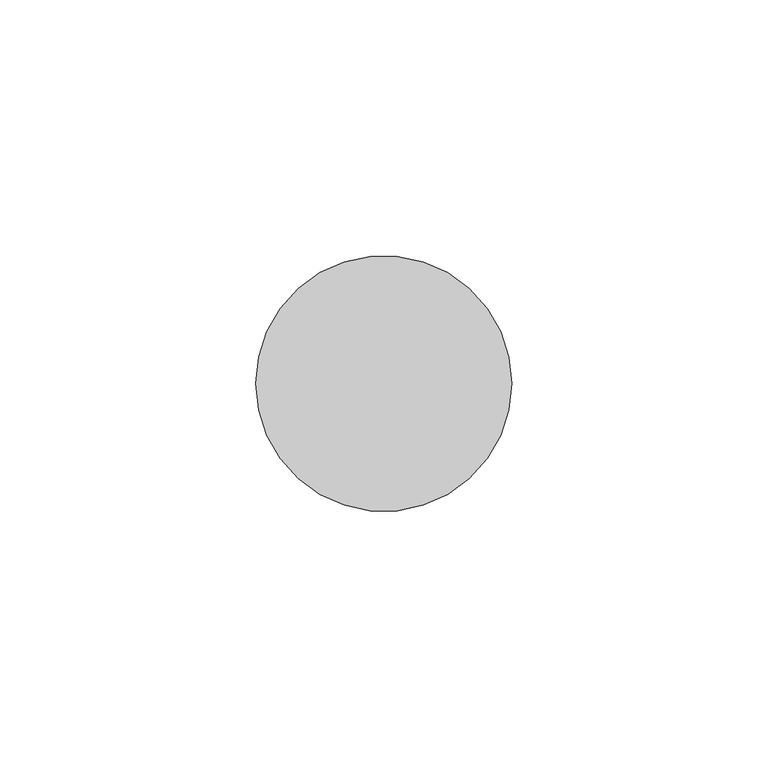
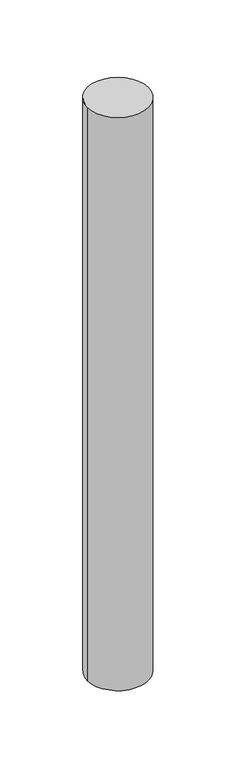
"""IFC4 building model written with IfcOpenShell, lengths in millimetres: member geometry, Импост круглого сечения : Радиус 25мм."""

import ifcopenshell
import ifcopenshell.guid

model = None  # the IFC model being written
_history = None  # IfcOwnerHistory: only IFC2X3 demands one
_inside = {}  # id of a spatial element -> (the spatial element, [elements in it])
_under = {}  # id of a project, library or spatial element -> (it, [spatial elements below it])
_declared = {}  # id of a project -> (the project, [libraries it declares])
_typed = {}  # id of a type object -> (the type object, [elements of that type])
_made_of = {}  # id of a material, layer set ... -> (it, [elements and type objects made of it])


def new_model(schema):
    """Start an empty IFC model of exactly this schema.

    Asked for "IFC4X3", IfcOpenShell would pick the latest addendum, in which some entities
    have other attributes; the version numbers below select the first issue.
    IFC2X3 requires an IfcOwnerHistory on every rooted entity: one is made here for all.
    """
    global model, _history
    if schema == "IFC4X3":
        model = ifcopenshell.file(schema_version=(4, 3, 0, 0))
    else:
        model = ifcopenshell.file(schema=schema)
    _inside.clear()
    _under.clear()
    _declared.clear()
    _typed.clear()
    _made_of.clear()
    _history = None
    if model.schema == "IFC2X3":
        org = make("IfcOrganization", Name="unknown")
        user = make(
            "IfcPersonAndOrganization",
            ThePerson=make("IfcPerson", FamilyName="unknown"),
            TheOrganization=org,
        )
        app = make(
            "IfcApplication",
            ApplicationDeveloper=org,
            Version="unknown",
            ApplicationFullName="unknown",
            ApplicationIdentifier="unknown",
        )
        _history = make(
            "IfcOwnerHistory",
            OwningUser=user,
            OwningApplication=app,
            ChangeAction="ADDED",
            CreationDate=0,
        )
    return model


def make(cls, **values):
    """One entity of the class cls with the attributes given. An attribute that is None is left unset."""
    return model.create_entity(
        cls, **{name: value for name, value in values.items() if value is not None}
    )


def rooted(cls, **values):
    """An entity with a GlobalId (a new one), such as an element, a storey or a relation."""
    return make(cls, GlobalId=ifcopenshell.guid.new(), OwnerHistory=_history, **values)


def si_unit(unit_type, name, prefix=None):
    """IfcSIUnit, for example si_unit("LENGTHUNIT", "METRE", prefix="MILLI")."""
    return make("IfcSIUnit", UnitType=unit_type, Prefix=prefix, Name=name)


def assignment(units):
    """IfcUnitAssignment: the units of a project."""
    return None if units is None else make("IfcUnitAssignment", Units=units)


def point(xyz):
    """IfcCartesianPoint."""
    return None if xyz is None else make("IfcCartesianPoint", Coordinates=xyz)


def direction(xyz):
    """IfcDirection."""
    return None if xyz is None else make("IfcDirection", DirectionRatios=xyz)


def frame(location, z_axis=None, x_axis=None):
    """IfcAxis2Placement3D, a coordinate frame: its origin and axes. An axis left out is left unset."""
    return make(
        "IfcAxis2Placement3D",
        Location=point(location),
        Axis=direction(z_axis),
        RefDirection=direction(x_axis),
    )


def frame_2d(location, x_axis=None):
    """IfcAxis2Placement2D, a coordinate frame in the plane: its origin and x axis."""
    return make(
        "IfcAxis2Placement2D", Location=point(location), RefDirection=direction(x_axis)
    )


def origin():
    """The frame at (0, 0, 0) with its axes left unset."""
    return frame((0.0, 0.0, 0.0))


def origin_2d():
    """The frame at (0, 0) in the plane with its x axis left unset."""
    return frame_2d((0.0, 0.0))


def place(relative_to, where):
    """IfcLocalPlacement: puts the frame where relative to a parent placement (None: the world)."""
    return make(
        "IfcLocalPlacement", PlacementRelTo=relative_to, RelativePlacement=where
    )


def context(
    kind, dimensions, precision=None, world=None, true_north=None, identifier=None
):
    """IfcGeometricRepresentationContext, for example the 3D "Model" context."""
    return make(
        "IfcGeometricRepresentationContext",
        ContextIdentifier=identifier,
        ContextType=kind,
        CoordinateSpaceDimension=dimensions,
        Precision=precision,
        WorldCoordinateSystem=world,
        TrueNorth=true_north,
    )


def project(units=None, contexts=None):
    """IfcProject with its units and contexts."""
    return rooted(
        "IfcProject",
        Name="project",
        RepresentationContexts=contexts,
        UnitsInContext=assignment(units),
    )


def spatial(cls, under=None, at=None, **own):
    """A site, building, storey or space (cls), placed at a placement, below another one or the project."""
    s = rooted(cls, ObjectPlacement=at, **own)
    if under is not None:
        _under.setdefault(under.id(), (under, []))[1].append(s)
    return s


def circle_curve(where, radius):
    """IfcCircle in the frame where."""
    return make("IfcCircle", Position=where, Radius=radius)


def trimmed(basis, trim1, trim2, sense, master):
    """IfcTrimmedCurve: the piece of a basis curve between two trims."""
    return make(
        "IfcTrimmedCurve",
        BasisCurve=basis,
        Trim1=trim1,
        Trim2=trim2,
        SenseAgreement=sense,
        MasterRepresentation=master,
    )


def segment(curve, same_sense, transition):
    """IfcCompositeCurveSegment."""
    return make(
        "IfcCompositeCurveSegment",
        Transition=transition,
        SameSense=same_sense,
        ParentCurve=curve,
    )


def composite_curve(segments, self_intersect=None):
    """IfcCompositeCurve: segments joined end to end."""
    return make("IfcCompositeCurve", Segments=segments, SelfIntersect=self_intersect)


def outline(outer, holes=None, kind="AREA"):
    """IfcArbitraryClosedProfileDef: a profile drawn as a closed curve; with holes, ...WithVoids."""
    if holes is None:
        return make("IfcArbitraryClosedProfileDef", ProfileType=kind, OuterCurve=outer)
    return make(
        "IfcArbitraryProfileDefWithVoids",
        ProfileType=kind,
        OuterCurve=outer,
        InnerCurves=holes,
    )


def extrude(swept, where, along, depth):
    """IfcExtrudedAreaSolid: the profile swept, set in the frame where, extruded along a direction by depth."""
    return make(
        "IfcExtrudedAreaSolid",
        SweptArea=swept,
        Position=where,
        ExtrudedDirection=direction(along),
        Depth=depth,
    )


def shape(context_of_items, identifier, shape_type, items):
    """IfcShapeRepresentation: the items that make up one representation, for example the "Body"."""
    return make(
        "IfcShapeRepresentation",
        ContextOfItems=context_of_items,
        RepresentationIdentifier=identifier,
        RepresentationType=shape_type,
        Items=items,
    )


def source(mapping_origin, context_of_items, identifier, shape_type, items):
    """IfcRepresentationMap: a shape defined once, which mapped items show again and again."""
    return make(
        "IfcRepresentationMap",
        MappingOrigin=mapping_origin,
        MappedRepresentation=shape(context_of_items, identifier, shape_type, items),
    )


def transform(
    local_origin,
    x_axis=None,
    y_axis=None,
    z_axis=None,
    scale=None,
    scale2=None,
    scale3=None,
    uniform=True,
):
    """IfcCartesianTransformationOperator3D, or its non-uniform kind. x_axis, y_axis, z_axis: its Axis1, 2, 3."""
    if uniform:
        return make(
            "IfcCartesianTransformationOperator3D",
            Axis1=direction(x_axis),
            Axis2=direction(y_axis),
            LocalOrigin=point(local_origin),
            Scale=scale,
            Axis3=direction(z_axis),
        )
    return make(
        "IfcCartesianTransformationOperator3DnonUniform",
        Axis1=direction(x_axis),
        Axis2=direction(y_axis),
        LocalOrigin=point(local_origin),
        Scale=scale,
        Axis3=direction(z_axis),
        Scale2=scale2,
        Scale3=scale3,
    )


def mapped(mapping_source, mapping_target):
    """IfcMappedItem: shows the shape of a source again, moved by a transform."""
    return make(
        "IfcMappedItem", MappingSource=mapping_source, MappingTarget=mapping_target
    )


def made_of(thing, what):
    """Note that an element or type object is made of a material, layer set ...; save() writes the relation."""
    if what is not None:
        _made_of.setdefault(what.id(), (what, []))[1].append(thing)
    return thing


def element(
    cls,
    number,
    at=None,
    inside=None,
    cuts=None,
    type_object=None,
    material=None,
    context=None,
    identifier="Body",
    shape_type=None,
    held_by="IfcProductDefinitionShape",
    body=None,
    shapes=None,
    **own,
):
    """One element of the class cls, such as IfcWall. Its Tag is "e" and its number.

    at: its placement. inside: the storey or other place that contains it. cuts: it is an
    opening in that element (IfcRelVoidsElement). A single representation is given by context,
    identifier, shape_type and body (its items); several are given by shapes. held_by: the class
    of the entity that holds the representations. save() writes the other relations.
    """
    e = rooted(cls, Tag="e%d" % number, ObjectPlacement=at, **own)
    if body is not None:
        shapes = [shape(context, identifier, shape_type, body)]
    if shapes is not None:
        e.Representation = make(held_by, Representations=shapes)
    if inside is not None:
        _inside.setdefault(inside.id(), (inside, []))[1].append(e)
    if cuts is not None:
        rooted(
            "IfcRelVoidsElement", RelatingBuildingElement=cuts, RelatedOpeningElement=e
        )
    if type_object is not None:
        _typed.setdefault(type_object.id(), (type_object, []))[1].append(e)
    return made_of(e, material)


def aggregate(whole, parts):
    """IfcRelAggregates: a whole, such as a stair, and the parts it consists of."""
    return rooted("IfcRelAggregates", RelatingObject=whole, RelatedObjects=parts)


def save(model, path):
    """Write the relations noted so far, then the file.

    IfcRelAggregates (storeys below a building ...), IfcRelContainedInSpatialStructure (elements
    in a storey), IfcRelDefinesByType, IfcRelAssociatesMaterial and IfcRelDeclares: one each for
    every whole, place, type object, material and project.
    """
    for whole, parts in _under.values():
        aggregate(whole, parts)
    for where, things in _inside.values():
        rooted(
            "IfcRelContainedInSpatialStructure",
            RelatedElements=things,
            RelatingStructure=where,
        )
    for kind, things in _typed.values():
        rooted("IfcRelDefinesByType", RelatedObjects=things, RelatingType=kind)
    for what, things in _made_of.values():
        rooted("IfcRelAssociatesMaterial", RelatedObjects=things, RelatingMaterial=what)
    for by, libraries in _declared.values():
        rooted("IfcRelDeclares", RelatingContext=by, RelatedDefinitions=libraries)
    model.write(path)


def member_5b2e4b60(model_context):
    return source(origin(), model_context, "Body", "SweptSolid", [
        extrude(outline(composite_curve([segment(trimmed(circle_curve(origin_2d(), 25.0), [point((25.0, 0.0))], [point((-25.0, 0.0))], False, "CARTESIAN"), True, "CONTINUOUS"), segment(trimmed(circle_curve(origin_2d(), 25.0), [point((-25.0, 0.0))], [point((25.0, 0.0))], False, "CARTESIAN"), True, "CONTINUOUS")], self_intersect=False)), frame((0.0, 0.0, -500.0), z_axis=(0.0, 0.0, 1.0), x_axis=(1.0, 0.0, 0.0)), (0.0, 0.0, 1.0), 500.0),
    ])


if __name__ == "__main__":
    model = new_model("IFC4")
    model_context = context("Model", 3, world=origin())
    ifc_project = project(units=[si_unit("LENGTHUNIT", "METRE", prefix="MILLI")], contexts=[model_context])
    site = spatial("IfcSite", under=ifc_project)
    building = spatial("IfcBuilding", under=site)
    placement = place(None, origin())
    member_shape = member_5b2e4b60(model_context)
    element("IfcMember", 1, ObjectType="Импост круглого сечения : Радиус 25мм", at=placement, inside=building, context=model_context, shape_type="MappedRepresentation", body=[
        mapped(member_shape, transform((0.0, 0.0, 0.0), x_axis=(1.0, 0.0, 0.0), y_axis=(0.0, 1.0, 0.0), z_axis=(0.0, 0.0, 1.0))),
    ])
    save(model, "model.ifc")
